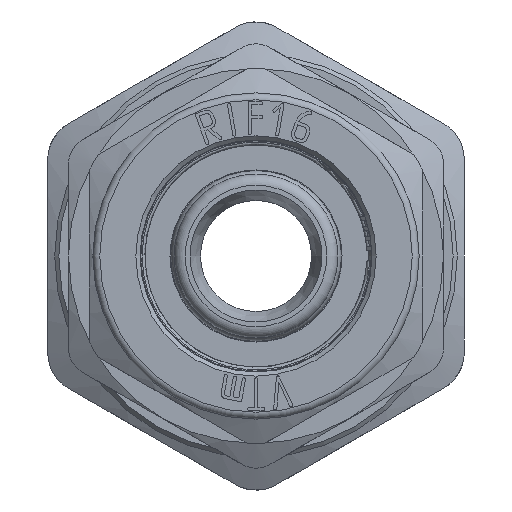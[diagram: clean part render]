
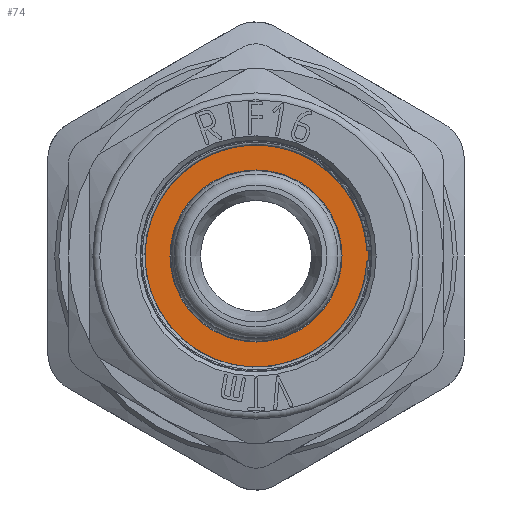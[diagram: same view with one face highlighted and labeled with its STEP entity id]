
A CAD part, front view. The second image highlights one B-rep face of the part: STEP entity #74.
In plain terms, the highlighted planar face has unit normal (0, -1, 0).
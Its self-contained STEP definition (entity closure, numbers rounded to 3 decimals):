
#74=ADVANCED_FACE('',(#735,#737),#739,.F.);
#735=FACE_BOUND('',#736,.T.);
#736=EDGE_LOOP('',(#4680));
#737=FACE_BOUND('',#738,.T.);
#738=EDGE_LOOP('',(#4681));
#739=PLANE('',#740);
#740=AXIS2_PLACEMENT_3D('',#741,#742,#743);
#741=CARTESIAN_POINT('',(0.,-8.,0.));
#742=DIRECTION('',(0.,1.,0.));
#743=DIRECTION('',(-1.,0.,0.));
#4680=ORIENTED_EDGE('',*,*,#8281,.T.);
#4681=ORIENTED_EDGE('',*,*,#8306,.T.);
#8281=EDGE_CURVE('',#9756,#9756,#9757,.T.);
#8306=EDGE_CURVE('',#9805,#9805,#9806,.T.);
#9756=VERTEX_POINT('',#12250);
#9757=CIRCLE('',#12251,8.1);
#9805=VERTEX_POINT('',#12393);
#9806=CIRCLE('',#12394,6.2);
#12250=CARTESIAN_POINT('',(8.1,-8.,0.));
#12251=AXIS2_PLACEMENT_3D('',#12252,#12253,#12254);
#12252=CARTESIAN_POINT('',(0.,-8.,0.));
#12253=DIRECTION('',(0.,-1.,0.));
#12254=DIRECTION('',(1.,0.,0.));
#12393=CARTESIAN_POINT('',(-6.2,-8.,0.));
#12394=AXIS2_PLACEMENT_3D('',#12395,#12396,#12397);
#12395=CARTESIAN_POINT('',(0.,-8.,0.));
#12396=DIRECTION('',(0.,1.,0.));
#12397=DIRECTION('',(-1.,0.,0.));
